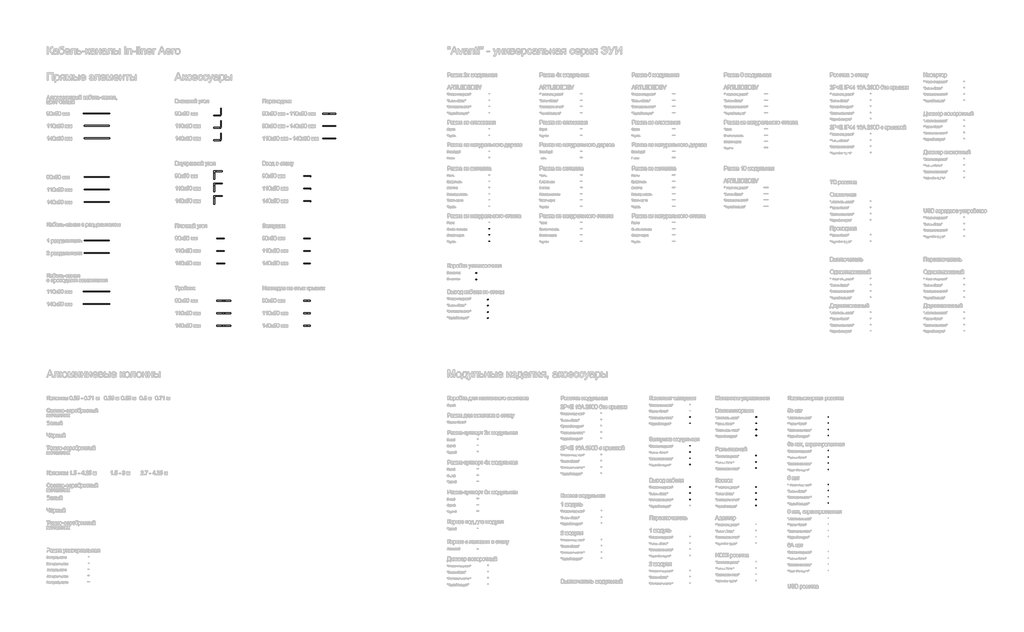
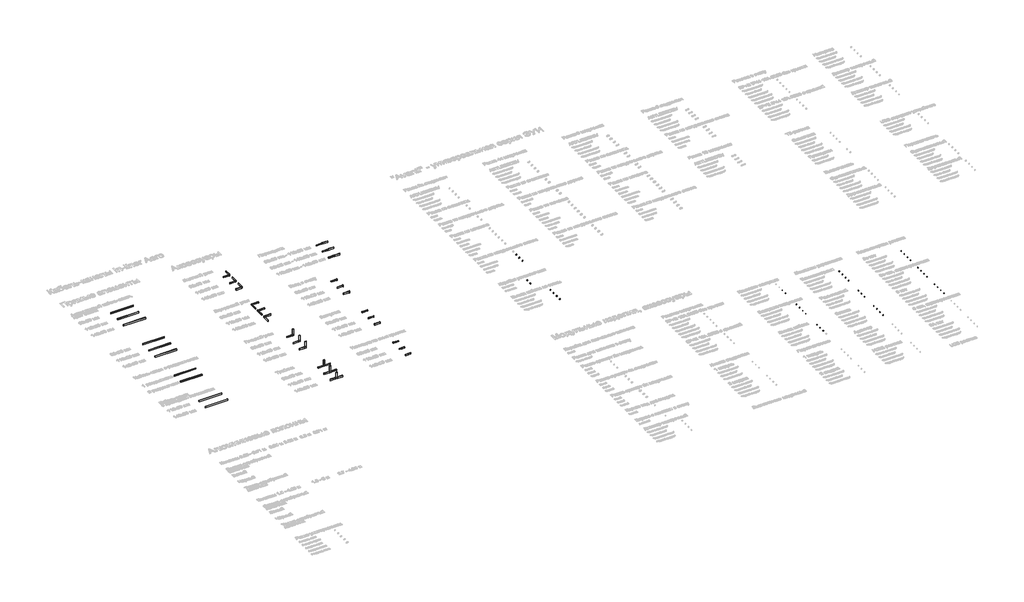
# One storey, part 2 of 168: 55 duct segments, 41 proxies, 25 duct fittings.
"""IFC4 building model written with IfcOpenShell, lengths in millimetres."""

from ifc_helpers import new_model, si_unit, frame, origin, place, context, project, spatial, polyline, outline, extrude, transform, mapped, element, save
from components import electrical_fixtures_7a4067e5, electrical_fixtures_b631ac2f, electrical_fixtures_96f9c914, electrical_fixtures_e782fb80, electrical_fixtures_b6adcdca, electrical_fixtures_1179ebf0, electrical_fixtures_da0829a4, electrical_fixtures_78a1f117, electrical_fixtures_828bd1fc, electrical_fixtures_21e1debb, duct_fitting_f061914f, duct_fitting_0ebe1992, duct_fitting_54a57bb6, duct_fitting_9d7435e2, duct_fitting_e96ebc83, duct_fitting_a4a51427, duct_fitting_e6dbaeff, duct_fitting_e088d14e, duct_fitting_b9135774, duct_fitting_89612ab8, duct_fitting_55dfbc9a, duct_fitting_11c19344, duct_fitting_31b2739c, duct_fitting_98a44e82, duct_fitting_d93176e7, duct_fitting_7f0a3ea3, duct_fitting_25aeb615, duct_fitting_57781086, duct_fitting_18d34416, duct_fitting_472e6830, duct_fitting_3937ce95, duct_fitting_09504g_049c488c

model = new_model("IFC4")

# Units and contexts
model_context = context("Model", 3, world=origin())
ifc_project = project(units=[si_unit("LENGTHUNIT", "METRE", prefix="MILLI")], contexts=[model_context])

# Site, building, storey
site = spatial("IfcSite", under=ifc_project)
building = spatial("IfcBuilding", under=site)
storey = spatial("IfcBuildingStorey", under=building, Name="Этаж 01", Elevation=0.0)

# Proxies
placement = place(None, origin())
electrical_fixtures_shape = electrical_fixtures_7a4067e5(model_context)
element("IfcBuildingElementProxy", 1, Name="КНС_РамкаДваМодуля_DKC : Натуральное стекло_Черная", ObjectType="КНС_РамкаДваМодуля_DKC : Натуральное стекло_Черная", at=placement, inside=storey, context=model_context, shape_type="MappedRepresentation", body=[
    mapped(electrical_fixtures_shape, transform((36232.6691835, -18231.5608655, 0.0), x_axis=(1.0, 0.0, 0.0), y_axis=(0.0, 1.0, 0.0), z_axis=(0.0, 0.0, 1.0))),
])
element("IfcBuildingElementProxy", 2, Name="КНС_РамкаДваМодуля_DKC : Натуральное стекло_Светло-серая", ObjectType="КНС_РамкаДваМодуля_DKC : Натуральное стекло_Светло-серая", at=placement, inside=storey, context=model_context, shape_type="MappedRepresentation", body=[
    mapped(electrical_fixtures_shape, transform((36232.6691835, -17731.5608655, 0.0), x_axis=(1.0, 0.0, 0.0), y_axis=(0.0, 1.0, 0.0), z_axis=(0.0, 0.0, 1.0))),
])
element("IfcBuildingElementProxy", 3, Name="КНС_РамкаДваМодуля_DKC : Натуральное стекло_Светло-зеленая", ObjectType="КНС_РамкаДваМодуля_DKC : Натуральное стекло_Светло-зеленая", at=placement, inside=storey, context=model_context, shape_type="MappedRepresentation", body=[
    mapped(electrical_fixtures_shape, transform((36232.6691835, -17231.5608655, 0.0), x_axis=(1.0, 0.0, 0.0), y_axis=(0.0, 1.0, 0.0), z_axis=(0.0, 0.0, 1.0))),
])
electrical_fixtures_2_shape = electrical_fixtures_b631ac2f(model_context)
element("IfcBuildingElementProxy", 4, Name="КНС_ЗаглушкаМодульная_DKC : Белая", ObjectType="КНС_ЗаглушкаМодульная_DKC : Белая", at=placement, inside=storey, context=model_context, shape_type="MappedRepresentation", body=[
    mapped(electrical_fixtures_2_shape, transform((52321.1137461, -35150.0174816, 0.0), x_axis=(1.0, 0.0, 0.0), y_axis=(0.0, 1.0, 0.0), z_axis=(0.0, 0.0, 1.0))),
])
element("IfcBuildingElementProxy", 5, Name="КНС_ЗаглушкаМодульная_DKC : Черная", ObjectType="КНС_ЗаглушкаМодульная_DKC : Черная", at=placement, inside=storey, context=model_context, shape_type="MappedRepresentation", body=[
    mapped(electrical_fixtures_2_shape, transform((52321.1137461, -36150.0174816, 0.0), x_axis=(1.0, 0.0, 0.0), y_axis=(0.0, 1.0, 0.0), z_axis=(0.0, 0.0, 1.0))),
])
element("IfcBuildingElementProxy", 6, Name="КНС_ЗаглушкаМодульная_DKC : Серая", ObjectType="КНС_ЗаглушкаМодульная_DKC : Серая", at=placement, inside=storey, context=model_context, shape_type="MappedRepresentation", body=[
    mapped(electrical_fixtures_2_shape, transform((52321.1137461, -35650.0174816, 0.0), x_axis=(1.0, 0.0, 0.0), y_axis=(0.0, 1.0, 0.0), z_axis=(0.0, 0.0, 1.0))),
])
element("IfcBuildingElementProxy", 7, Name="КНС_ЗаглушкаМодульная_DKC : Бежевая", ObjectType="КНС_ЗаглушкаМодульная_DKC : Бежевая", at=placement, inside=storey, context=model_context, shape_type="MappedRepresentation", body=[
    mapped(electrical_fixtures_2_shape, transform((52321.1137461, -34650.0174816, 0.0), x_axis=(1.0, 0.0, 0.0), y_axis=(0.0, 1.0, 0.0), z_axis=(0.0, 0.0, 1.0))),
])
electrical_fixtures_3_shape = electrical_fixtures_96f9c914(model_context)
element("IfcBuildingElementProxy", 8, Name="КНС_КоробкаПодрозеточнаяДляСплошныхСтен_DKC : 2 модуля с винтами", ObjectType="КНС_КоробкаПодрозеточнаяДляСплошныхСтен_DKC : 2 модуля с винтами", at=placement, inside=storey, context=model_context, shape_type="MappedRepresentation", body=[
    mapped(electrical_fixtures_3_shape, transform((35192.6691835, -21296.8608655, 0.0), x_axis=(1.0, 0.0, 0.0), y_axis=(0.0, 1.0, 0.0), z_axis=(0.0, 0.0, 1.0))),
])
element("IfcBuildingElementProxy", 9, Name="КНС_КоробкаПодрозеточнаяДляСплошныхСтен_DKC : 2 модуля без винтов", ObjectType="КНС_КоробкаПодрозеточнаяДляСплошныхСтен_DKC : 2 модуля без винтов", at=placement, inside=storey, context=model_context, shape_type="MappedRepresentation", body=[
    mapped(electrical_fixtures_3_shape, transform((35192.6691835, -20796.8608655, 0.0), x_axis=(1.0, 0.0, 0.0), y_axis=(0.0, 1.0, 0.0), z_axis=(0.0, 0.0, 1.0))),
])
electrical_fixtures_4_shape = electrical_fixtures_e782fb80(model_context)
element("IfcBuildingElementProxy", 10, Name="КНС_ВыводКабеляИзСтены_DKC : Белая", ObjectType="КНС_ВыводКабеляИзСтены_DKC : Белая", at=placement, inside=storey, context=model_context, shape_type="MappedRepresentation", body=[
    mapped(electrical_fixtures_4_shape, transform((36132.6691835, -23396.8608655, 0.0), x_axis=(1.0, 0.0, 0.0), y_axis=(0.0, 1.0, 0.0), z_axis=(0.0, 0.0, 1.0))),
])
element("IfcBuildingElementProxy", 11, Name="КНС_ВыводКабеляИзСтены_DKC : Бежевая", ObjectType="КНС_ВыводКабеляИзСтены_DKC : Бежевая", at=placement, inside=storey, context=model_context, shape_type="MappedRepresentation", body=[
    mapped(electrical_fixtures_4_shape, transform((36132.6691835, -22896.8608655, 0.0), x_axis=(1.0, 0.0, 0.0), y_axis=(0.0, 1.0, 0.0), z_axis=(0.0, 0.0, 1.0))),
])
element("IfcBuildingElementProxy", 12, Name="КНС_ВыводКабеляИзСтены_DKC : Серая", ObjectType="КНС_ВыводКабеляИзСтены_DKC : Серая", at=placement, inside=storey, context=model_context, shape_type="MappedRepresentation", body=[
    mapped(electrical_fixtures_4_shape, transform((36132.6691835, -23896.8608655, 0.0), x_axis=(1.0, 0.0, 0.0), y_axis=(0.0, 1.0, 0.0), z_axis=(0.0, 0.0, 1.0))),
])
element("IfcBuildingElementProxy", 13, Name="КНС_ВыводКабеляИзСтены_DKC : Черная", ObjectType="КНС_ВыводКабеляИзСтены_DKC : Черная", at=placement, inside=storey, context=model_context, shape_type="MappedRepresentation", body=[
    mapped(electrical_fixtures_4_shape, transform((36132.6691835, -24396.8608655, 0.0), x_axis=(1.0, 0.0, 0.0), y_axis=(0.0, 1.0, 0.0), z_axis=(0.0, 0.0, 1.0))),
])
electrical_fixtures_5_shape = electrical_fixtures_b6adcdca(model_context)
element("IfcBuildingElementProxy", 14, Name="КНС_ВыводКабеляДваМодуля_DKC : Белый", ObjectType="КНС_ВыводКабеляДваМодуля_DKC : Белый", at=placement, inside=storey, context=model_context, shape_type="MappedRepresentation", body=[
    mapped(electrical_fixtures_5_shape, transform((52321.1137461, -38415.3174816, 0.0), x_axis=(1.0, 0.0, 0.0), y_axis=(0.0, 1.0, 0.0), z_axis=(0.0, 0.0, 1.0))),
])
element("IfcBuildingElementProxy", 15, Name="КНС_ВыводКабеляДваМодуля_DKC : Бежевый", ObjectType="КНС_ВыводКабеляДваМодуля_DKC : Бежевый", at=placement, inside=storey, context=model_context, shape_type="MappedRepresentation", body=[
    mapped(electrical_fixtures_5_shape, transform((52321.1137461, -37915.3174816, 0.0), x_axis=(1.0, 0.0, 0.0), y_axis=(0.0, 1.0, 0.0), z_axis=(0.0, 0.0, 1.0))),
])
element("IfcBuildingElementProxy", 16, Name="КНС_ВыводКабеляДваМодуля_DKC : Серый", ObjectType="КНС_ВыводКабеляДваМодуля_DKC : Серый", at=placement, inside=storey, context=model_context, shape_type="MappedRepresentation", body=[
    mapped(electrical_fixtures_5_shape, transform((52321.1137461, -38915.3174816, 0.0), x_axis=(1.0, 0.0, 0.0), y_axis=(0.0, 1.0, 0.0), z_axis=(0.0, 0.0, 1.0))),
])
electrical_fixtures_6_shape = electrical_fixtures_1179ebf0(model_context)
element("IfcBuildingElementProxy", 17, Name="КНС_КомплектМодульныхЗаглушек_DKC : Черная", ObjectType="КНС_КомплектМодульныхЗаглушек_DKC : Черная", at=placement, inside=storey, context=model_context, shape_type="MappedRepresentation", body=[
    mapped(electrical_fixtures_6_shape, transform((52321.1137461, -32850.0174816, 0.0), x_axis=(1.0, 0.0, 0.0), y_axis=(0.0, 1.0, 0.0), z_axis=(0.0, 0.0, 1.0))),
])
element("IfcBuildingElementProxy", 18, Name="КНС_КомплектМодульныхЗаглушек_DKC : Серая", ObjectType="КНС_КомплектМодульныхЗаглушек_DKC : Серая", at=placement, inside=storey, context=model_context, shape_type="MappedRepresentation", body=[
    mapped(electrical_fixtures_6_shape, transform((52321.1137461, -32350.0174816, 0.0), x_axis=(1.0, 0.0, 0.0), y_axis=(0.0, 1.0, 0.0), z_axis=(0.0, 0.0, 1.0))),
])
electrical_fixtures_7_shape = electrical_fixtures_da0829a4(model_context)
element("IfcBuildingElementProxy", 19, Name="КНС_МеханизмУправленияВентиляторамиМодульный_DKC : Белый", ObjectType="КНС_МеханизмУправленияВентиляторамиМодульный_DKC : Белый", at=placement, inside=storey, context=model_context, shape_type="MappedRepresentation", body=[
    mapped(electrical_fixtures_7_shape, transform((57630.7424412, -32815.3174816, 0.0), x_axis=(1.0, 0.0, 0.0), y_axis=(0.0, 1.0, 0.0), z_axis=(0.0, 0.0, 1.0))),
])
element("IfcBuildingElementProxy", 20, Name="КНС_МеханизмУправленияВентиляторамиМодульный_DKC : Бежевый", ObjectType="КНС_МеханизмУправленияВентиляторамиМодульный_DKC : Бежевый", at=placement, inside=storey, context=model_context, shape_type="MappedRepresentation", body=[
    mapped(electrical_fixtures_7_shape, transform((57630.7424412, -32315.3174816, 0.0), x_axis=(1.0, 0.0, 0.0), y_axis=(0.0, 1.0, 0.0), z_axis=(0.0, 0.0, 1.0))),
])
element("IfcBuildingElementProxy", 21, Name="КНС_МеханизмУправленияВентиляторамиМодульный_DKC : Серый", ObjectType="КНС_МеханизмУправленияВентиляторамиМодульный_DKC : Серый", at=placement, inside=storey, context=model_context, shape_type="MappedRepresentation", body=[
    mapped(electrical_fixtures_7_shape, transform((57630.7424412, -33315.3174816, 0.0), x_axis=(1.0, 0.0, 0.0), y_axis=(0.0, 1.0, 0.0), z_axis=(0.0, 0.0, 1.0))),
])
element("IfcBuildingElementProxy", 22, Name="КНС_МеханизмУправленияВентиляторамиМодульный_DKC : Черный", ObjectType="КНС_МеханизмУправленияВентиляторамиМодульный_DKC : Черный", at=placement, inside=storey, context=model_context, shape_type="MappedRepresentation", body=[
    mapped(electrical_fixtures_7_shape, transform((57630.7424412, -33815.3174816, 0.0), x_axis=(1.0, 0.0, 0.0), y_axis=(0.0, 1.0, 0.0), z_axis=(0.0, 0.0, 1.0))),
])
electrical_fixtures_8_shape = electrical_fixtures_78a1f117(model_context)
element("IfcBuildingElementProxy", 23, Name="КНС_МеханизмУправленияРольставнейМодульный_DKC : Белый", ObjectType="КНС_МеханизмУправленияРольставнейМодульный_DKC : Белый", at=placement, inside=storey, context=model_context, shape_type="MappedRepresentation", body=[
    mapped(electrical_fixtures_8_shape, transform((57630.7424412, -35915.3174816, 0.0), x_axis=(1.0, 0.0, 0.0), y_axis=(0.0, 1.0, 0.0), z_axis=(0.0, 0.0, 1.0))),
])
element("IfcBuildingElementProxy", 24, Name="КНС_МеханизмУправленияРольставнейМодульный_DKC : Бежевый", ObjectType="КНС_МеханизмУправленияРольставнейМодульный_DKC : Бежевый", at=placement, inside=storey, context=model_context, shape_type="MappedRepresentation", body=[
    mapped(electrical_fixtures_8_shape, transform((57630.7424412, -35415.3174816, 0.0), x_axis=(1.0, 0.0, 0.0), y_axis=(0.0, 1.0, 0.0), z_axis=(0.0, 0.0, 1.0))),
])
element("IfcBuildingElementProxy", 25, Name="КНС_МеханизмУправленияРольставнейМодульный_DKC : Серый", ObjectType="КНС_МеханизмУправленияРольставнейМодульный_DKC : Серый", at=placement, inside=storey, context=model_context, shape_type="MappedRepresentation", body=[
    mapped(electrical_fixtures_8_shape, transform((57630.7424412, -36415.3174816, 0.0), x_axis=(1.0, 0.0, 0.0), y_axis=(0.0, 1.0, 0.0), z_axis=(0.0, 0.0, 1.0))),
])
electrical_fixtures_9_shape = electrical_fixtures_828bd1fc(model_context)
element("IfcBuildingElementProxy", 26, Name="КНС_ЗвонокМодульный_DKC : Белый", ObjectType="КНС_ЗвонокМодульный_DKC : Белый", at=placement, inside=storey, context=model_context, shape_type="MappedRepresentation", body=[
    mapped(electrical_fixtures_9_shape, transform((57630.7424412, -38415.3174816, 0.0), x_axis=(1.0, 0.0, 0.0), y_axis=(0.0, 1.0, 0.0), z_axis=(0.0, 0.0, 1.0))),
])
element("IfcBuildingElementProxy", 27, Name="КНС_ЗвонокМодульный_DKC : Бежевый", ObjectType="КНС_ЗвонокМодульный_DKC : Бежевый", at=placement, inside=storey, context=model_context, shape_type="MappedRepresentation", body=[
    mapped(electrical_fixtures_9_shape, transform((57630.7424412, -37915.3174816, 0.0), x_axis=(1.0, 0.0, 0.0), y_axis=(0.0, 1.0, 0.0), z_axis=(0.0, 0.0, 1.0))),
])
element("IfcBuildingElementProxy", 28, Name="КНС_ЗвонокМодульный_DKC : Серый", ObjectType="КНС_ЗвонокМодульный_DKC : Серый", at=placement, inside=storey, context=model_context, shape_type="MappedRepresentation", body=[
    mapped(electrical_fixtures_9_shape, transform((57630.7424412, -38915.3174816, 0.0), x_axis=(1.0, 0.0, 0.0), y_axis=(0.0, 1.0, 0.0), z_axis=(0.0, 0.0, 1.0))),
])
element("IfcBuildingElementProxy", 29, Name="КНС_ЗвонокМодульный_DKC : Черный", ObjectType="КНС_ЗвонокМодульный_DKC : Черный", at=placement, inside=storey, context=model_context, shape_type="MappedRepresentation", body=[
    mapped(electrical_fixtures_9_shape, transform((57630.7424412, -39415.3174816, 0.0), x_axis=(1.0, 0.0, 0.0), y_axis=(0.0, 1.0, 0.0), z_axis=(0.0, 0.0, 1.0))),
])
electrical_fixtures_10_shape = electrical_fixtures_21e1debb(model_context)
element("IfcBuildingElementProxy", 30, Name="КНС_РозеткаКомпьютернаяМодульная_DKC : 5е кат_Экранированная_Белая", ObjectType="КНС_РозеткаКомпьютернаяМодульная_DKC : 5е кат_Экранированная_Белая", at=placement, inside=storey, context=model_context, shape_type="MappedRepresentation", body=[
    mapped(electrical_fixtures_10_shape, transform((63421.1137461, -35550.0174816, 0.0), x_axis=(1.0, 0.0, 0.0), y_axis=(0.0, 1.0, 0.0), z_axis=(0.0, 0.0, 1.0))),
])
element("IfcBuildingElementProxy", 31, Name="КНС_РозеткаКомпьютернаяМодульная_DKC : 5е кат_Экранированная_Черная", ObjectType="КНС_РозеткаКомпьютернаяМодульная_DKC : 5е кат_Экранированная_Черная", at=placement, inside=storey, context=model_context, shape_type="MappedRepresentation", body=[
    mapped(electrical_fixtures_10_shape, transform((63421.1137461, -36550.0174816, 0.0), x_axis=(1.0, 0.0, 0.0), y_axis=(0.0, 1.0, 0.0), z_axis=(0.0, 0.0, 1.0))),
])
element("IfcBuildingElementProxy", 32, Name="КНС_РозеткаКомпьютернаяМодульная_DKC : 5е кат_Экранированная_Серая", ObjectType="КНС_РозеткаКомпьютернаяМодульная_DKC : 5е кат_Экранированная_Серая", at=placement, inside=storey, context=model_context, shape_type="MappedRepresentation", body=[
    mapped(electrical_fixtures_10_shape, transform((63421.1137461, -36050.0174816, 0.0), x_axis=(1.0, 0.0, 0.0), y_axis=(0.0, 1.0, 0.0), z_axis=(0.0, 0.0, 1.0))),
])
element("IfcBuildingElementProxy", 33, Name="КНС_РозеткаКомпьютернаяМодульная_DKC : 5е кат_Экранированная_Бежевая", ObjectType="КНС_РозеткаКомпьютернаяМодульная_DKC : 5е кат_Экранированная_Бежевая", at=placement, inside=storey, context=model_context, shape_type="MappedRepresentation", body=[
    mapped(electrical_fixtures_10_shape, transform((63421.1137461, -35050.0174816, 0.0), x_axis=(1.0, 0.0, 0.0), y_axis=(0.0, 1.0, 0.0), z_axis=(0.0, 0.0, 1.0))),
])
element("IfcBuildingElementProxy", 34, Name="КНС_РозеткаКомпьютернаяМодульная_DKC : 5е кат_Бежевая", ObjectType="КНС_РозеткаКомпьютернаяМодульная_DKC : 5е кат_Бежевая", at=placement, inside=storey, context=model_context, shape_type="MappedRepresentation", body=[
    mapped(electrical_fixtures_10_shape, transform((63421.1137461, -32350.0174816, 0.0), x_axis=(1.0, 0.0, 0.0), y_axis=(0.0, 1.0, 0.0), z_axis=(0.0, 0.0, 1.0))),
])
element("IfcBuildingElementProxy", 35, Name="КНС_РозеткаКомпьютернаяМодульная_DKC : 5е кат_Белая", ObjectType="КНС_РозеткаКомпьютернаяМодульная_DKC : 5е кат_Белая", at=placement, inside=storey, context=model_context, shape_type="MappedRepresentation", body=[
    mapped(electrical_fixtures_10_shape, transform((63421.1137461, -32850.0174816, 0.0), x_axis=(1.0, 0.0, 0.0), y_axis=(0.0, 1.0, 0.0), z_axis=(0.0, 0.0, 1.0))),
])
element("IfcBuildingElementProxy", 36, Name="КНС_РозеткаКомпьютернаяМодульная_DKC : 5е кат_Серая", ObjectType="КНС_РозеткаКомпьютернаяМодульная_DKC : 5е кат_Серая", at=placement, inside=storey, context=model_context, shape_type="MappedRepresentation", body=[
    mapped(electrical_fixtures_10_shape, transform((63421.1137461, -33350.0174816, 0.0), x_axis=(1.0, 0.0, 0.0), y_axis=(0.0, 1.0, 0.0), z_axis=(0.0, 0.0, 1.0))),
])
element("IfcBuildingElementProxy", 37, Name="КНС_РозеткаКомпьютернаяМодульная_DKC : 5е кат_Черная", ObjectType="КНС_РозеткаКомпьютернаяМодульная_DKC : 5е кат_Черная", at=placement, inside=storey, context=model_context, shape_type="MappedRepresentation", body=[
    mapped(electrical_fixtures_10_shape, transform((63421.1137461, -33850.0174816, 0.0), x_axis=(1.0, 0.0, 0.0), y_axis=(0.0, 1.0, 0.0), z_axis=(0.0, 0.0, 1.0))),
])
element("IfcBuildingElementProxy", 38, Name="КНС_РозеткаКомпьютернаяМодульная_DKC : 6 кат_Бежевая", ObjectType="КНС_РозеткаКомпьютернаяМодульная_DKC : 6 кат_Бежевая", at=placement, inside=storey, context=model_context, shape_type="MappedRepresentation", body=[
    mapped(electrical_fixtures_10_shape, transform((63421.1137461, -37750.0174816, 0.0), x_axis=(1.0, 0.0, 0.0), y_axis=(0.0, 1.0, 0.0), z_axis=(0.0, 0.0, 1.0))),
])
element("IfcBuildingElementProxy", 39, Name="КНС_РозеткаКомпьютернаяМодульная_DKC : 6 кат_Белая", ObjectType="КНС_РозеткаКомпьютернаяМодульная_DKC : 6 кат_Белая", at=placement, inside=storey, context=model_context, shape_type="MappedRepresentation", body=[
    mapped(electrical_fixtures_10_shape, transform((63421.1137461, -38250.0174816, 0.0), x_axis=(1.0, 0.0, 0.0), y_axis=(0.0, 1.0, 0.0), z_axis=(0.0, 0.0, 1.0))),
])
element("IfcBuildingElementProxy", 40, Name="КНС_РозеткаКомпьютернаяМодульная_DKC : 6 кат_Серая", ObjectType="КНС_РозеткаКомпьютернаяМодульная_DKC : 6 кат_Серая", at=placement, inside=storey, context=model_context, shape_type="MappedRepresentation", body=[
    mapped(electrical_fixtures_10_shape, transform((63421.1137461, -38750.0174816, 0.0), x_axis=(1.0, 0.0, 0.0), y_axis=(0.0, 1.0, 0.0), z_axis=(0.0, 0.0, 1.0))),
])
element("IfcBuildingElementProxy", 41, Name="КНС_РозеткаКомпьютернаяМодульная_DKC : 6 кат_Черная", ObjectType="КНС_РозеткаКомпьютернаяМодульная_DKC : 6 кат_Черная", at=placement, inside=storey, context=model_context, shape_type="MappedRepresentation", body=[
    mapped(electrical_fixtures_10_shape, transform((63421.1137461, -39250.0174816, 0.0), x_axis=(1.0, 0.0, 0.0), y_axis=(0.0, 1.0, 0.0), z_axis=(0.0, 0.0, 1.0))),
])

# Duct fittings
duct_fitting_shape = duct_fitting_f061914f(model_context)
element("IfcDuctFitting", 42, ObjectType="КНС_Тройник_DKC : Тройник (Т-образный отвод)", at=placement, inside=storey, context=model_context, shape_type="MappedRepresentation", body=[
    mapped(duct_fitting_shape, transform((14944.6238337, -25022.3370657, 0.0), x_axis=(-1.0, 0.0, 0.0), y_axis=(0.0, 0.0, -1.0), z_axis=(0.0, -1.0, 0.0))),
])
duct_fitting_2_shape = duct_fitting_0ebe1992(model_context)
element("IfcDuctFitting", 43, ObjectType="КНС_УголВнешний_DKC : Угол внешний", at=placement, inside=storey, context=model_context, shape_type="MappedRepresentation", body=[
    mapped(duct_fitting_2_shape, transform((14730.114053, -9152.675335, 0.0), x_axis=(1.0, 0.0, 0.0), y_axis=(0.0, 1.0, 0.0), z_axis=(0.0, 0.0, 1.0))),
])
duct_fitting_3_shape = duct_fitting_54a57bb6(model_context)
element("IfcDuctFitting", 44, ObjectType="КНС_УголВнутренний_DKC : Угол внутренний", at=placement, inside=storey, context=model_context, shape_type="MappedRepresentation", body=[
    mapped(duct_fitting_3_shape, transform((14186.3457421, -13633.2753858, 0.0), x_axis=(-1.0, 0.0, 0.0), y_axis=(0.0, -1.0, 0.0), z_axis=(0.0, 0.0, 1.0))),
])
duct_fitting_4_shape = duct_fitting_9d7435e2(model_context)
element("IfcDuctFitting", 45, ObjectType="КНС_УголПлоский_DKC : Угол плоский", at=placement, inside=storey, context=model_context, shape_type="MappedRepresentation", body=[
    mapped(duct_fitting_4_shape, transform((14934.4572449, -20022.3370657, 15.0757244), x_axis=(1.0, 0.0, 0.0), y_axis=(0.0, 0.0, 1.0), z_axis=(0.0, -1.0, 0.0))),
])
duct_fitting_5_shape = duct_fitting_e96ebc83(model_context)
element("IfcDuctFitting", 46, ObjectType="КНС_ЗаглушкаТорцевая_DKC : Заглушка торцевая", at=placement, inside=storey, context=model_context, shape_type="MappedRepresentation", body=[
    mapped(duct_fitting_5_shape, transform((21861.9572449, -18007.2613413, 0.0), x_axis=(1.0, 0.0, 0.0), y_axis=(0.0, 1.0, 0.0), z_axis=(0.0, 0.0, 1.0))),
])
duct_fitting_6_shape = duct_fitting_a4a51427(model_context)
element("IfcDuctFitting", 47, ObjectType="КНС_ВводВСтену_DKC : Ввод в стену", at=placement, inside=storey, context=model_context, shape_type="MappedRepresentation", body=[
    mapped(duct_fitting_6_shape, transform((21861.9572449, -13007.2613413, 0.0), x_axis=(1.0, 0.0, 0.0), y_axis=(0.0, 1.0, 0.0), z_axis=(0.0, 0.0, 1.0))),
])
duct_fitting_7_shape = duct_fitting_e6dbaeff(model_context)
element("IfcDuctFitting", 48, ObjectType="КНС_ВводВСтену_DKC : Ввод в стену", at=placement, inside=storey, context=model_context, shape_type="MappedRepresentation", body=[
    mapped(duct_fitting_7_shape, transform((21861.9572449, -14007.2613413, 0.0), x_axis=(1.0, 0.0, 0.0), y_axis=(0.0, 1.0, 0.0), z_axis=(0.0, 0.0, 1.0))),
])
duct_fitting_8_shape = duct_fitting_e088d14e(model_context)
element("IfcDuctFitting", 49, ObjectType="КНС_ВводВСтену_DKC : Ввод в стену", at=placement, inside=storey, context=model_context, shape_type="MappedRepresentation", body=[
    mapped(duct_fitting_8_shape, transform((21861.9572449, -15007.2613413, 0.0), x_axis=(1.0, 0.0, 0.0), y_axis=(0.0, 1.0, 0.0), z_axis=(0.0, 0.0, 1.0))),
])
duct_fitting_9_shape = duct_fitting_b9135774(model_context)
element("IfcDuctFitting", 50, ObjectType="КНС_Переход_DKC : Переход", at=placement, inside=storey, context=model_context, shape_type="MappedRepresentation", body=[
    mapped(duct_fitting_9_shape, transform((23361.9572449, -8007.2613413, 0.0), x_axis=(1.0, 0.0, 0.0), y_axis=(0.0, 1.0, 0.0), z_axis=(0.0, 0.0, 1.0))),
])
duct_fitting_10_shape = duct_fitting_89612ab8(model_context)
element("IfcDuctFitting", 51, ObjectType="КНС_Переход_DKC : Переход", at=placement, inside=storey, context=model_context, shape_type="MappedRepresentation", body=[
    mapped(duct_fitting_10_shape, transform((23432.2904224, -9037.4127901, 0.0), x_axis=(-1.0, 0.0, 0.0), y_axis=(0.0, -1.0, 0.0), z_axis=(0.0, 0.0, 1.0))),
])
duct_fitting_11_shape = duct_fitting_55dfbc9a(model_context)
element("IfcDuctFitting", 52, ObjectType="КНС_Переход_DKC : Переход", at=placement, inside=storey, context=model_context, shape_type="MappedRepresentation", body=[
    mapped(duct_fitting_11_shape, transform((23361.9572449, -10007.2613413, 0.0), x_axis=(1.0, 0.0, 0.0), y_axis=(0.0, 1.0, 0.0), z_axis=(0.0, 0.0, 1.0))),
])
duct_fitting_12_shape = duct_fitting_11c19344(model_context)
element("IfcDuctFitting", 53, ObjectType="КНС_ЗаглушкаТорцевая_DKC : Заглушка торцевая", at=placement, inside=storey, context=model_context, shape_type="MappedRepresentation", body=[
    mapped(duct_fitting_12_shape, transform((21861.9572449, -19007.2613413, 0.0), x_axis=(1.0, 0.0, 0.0), y_axis=(0.0, 1.0, 0.0), z_axis=(0.0, 0.0, 1.0))),
])
duct_fitting_13_shape = duct_fitting_31b2739c(model_context)
element("IfcDuctFitting", 54, ObjectType="КНС_ЗаглушкаТорцевая_DKC : Заглушка торцевая", at=placement, inside=storey, context=model_context, shape_type="MappedRepresentation", body=[
    mapped(duct_fitting_13_shape, transform((21861.9572449, -20007.2613413, 0.0), x_axis=(1.0, 0.0, 0.0), y_axis=(0.0, 1.0, 0.0), z_axis=(0.0, 0.0, 1.0))),
])
duct_fitting_14_shape = duct_fitting_98a44e82(model_context)
element("IfcDuctFitting", 55, ObjectType="КНС_Тройник_DKC : Тройник (Т-образный отвод)", at=placement, inside=storey, context=model_context, shape_type="MappedRepresentation", body=[
    mapped(duct_fitting_14_shape, transform((14944.6238337, -23022.3370657, 0.0), x_axis=(-1.0, 0.0, 0.0), y_axis=(0.0, 0.0, -1.0), z_axis=(0.0, -1.0, 0.0))),
])
duct_fitting_15_shape = duct_fitting_d93176e7(model_context)
element("IfcDuctFitting", 56, ObjectType="КНС_Тройник_DKC : Тройник (Т-образный отвод)", at=placement, inside=storey, context=model_context, shape_type="MappedRepresentation", body=[
    mapped(duct_fitting_15_shape, transform((14944.6238337, -24022.3370657, 0.0), x_axis=(-1.0, 0.0, 0.0), y_axis=(0.0, 0.0, -1.0), z_axis=(0.0, -1.0, 0.0))),
])
duct_fitting_16_shape = duct_fitting_7f0a3ea3(model_context)
element("IfcDuctFitting", 57, ObjectType="КНС_УголВнутренний_DKC : Угол внутренний", at=placement, inside=storey, context=model_context, shape_type="MappedRepresentation", body=[
    mapped(duct_fitting_16_shape, transform((14186.3457421, -12633.2753858, 0.0), x_axis=(-1.0, 0.0, 0.0), y_axis=(0.0, -1.0, 0.0), z_axis=(0.0, 0.0, 1.0))),
])
duct_fitting_17_shape = duct_fitting_25aeb615(model_context)
element("IfcDuctFitting", 58, ObjectType="КНС_УголВнутренний_DKC : Угол внутренний", at=placement, inside=storey, context=model_context, shape_type="MappedRepresentation", body=[
    mapped(duct_fitting_17_shape, transform((14186.3457421, -14633.2753858, 0.0), x_axis=(-1.0, 0.0, 0.0), y_axis=(0.0, -1.0, 0.0), z_axis=(0.0, 0.0, 1.0))),
])
duct_fitting_18_shape = duct_fitting_57781086(model_context)
element("IfcDuctFitting", 59, ObjectType="КНС_УголПлоский_DKC : Угол плоский", at=placement, inside=storey, context=model_context, shape_type="MappedRepresentation", body=[
    mapped(duct_fitting_18_shape, transform((14934.4572449, -18022.3370657, 15.0757244), x_axis=(1.0, 0.0, 0.0), y_axis=(0.0, 0.0, 1.0), z_axis=(0.0, -1.0, 0.0))),
])
duct_fitting_19_shape = duct_fitting_18d34416(model_context)
element("IfcDuctFitting", 60, ObjectType="КНС_УголПлоский_DKC : Угол плоский", at=placement, inside=storey, context=model_context, shape_type="MappedRepresentation", body=[
    mapped(duct_fitting_19_shape, transform((14934.4572449, -19022.3370657, 15.0757244), x_axis=(1.0, 0.0, 0.0), y_axis=(0.0, 0.0, 1.0), z_axis=(0.0, -1.0, 0.0))),
])
duct_fitting_20_shape = duct_fitting_472e6830(model_context)
element("IfcDuctFitting", 61, ObjectType="КНС_УголВнешний_DKC : Угол внешний", at=placement, inside=storey, context=model_context, shape_type="MappedRepresentation", body=[
    mapped(duct_fitting_20_shape, transform((14730.114053, -8152.675335, 0.0), x_axis=(1.0, 0.0, 0.0), y_axis=(0.0, 1.0, 0.0), z_axis=(0.0, 0.0, 1.0))),
])
duct_fitting_21_shape = duct_fitting_3937ce95(model_context)
element("IfcDuctFitting", 62, ObjectType="КНС_УголВнешний_DKC : Угол внешний", at=placement, inside=storey, context=model_context, shape_type="MappedRepresentation", body=[
    mapped(duct_fitting_21_shape, transform((14730.114053, -10152.675335, 0.0), x_axis=(1.0, 0.0, 0.0), y_axis=(0.0, 1.0, 0.0), z_axis=(0.0, 0.0, 1.0))),
])
duct_fitting_09504g_shape = duct_fitting_09504g_049c488c(model_context)
element("IfcDuctFitting", 63, ObjectType="КНС_НакладкаНаСтыкКрышек_DKC : 09504G", at=placement, inside=storey, context=model_context, shape_type="MappedRepresentation", body=[
    mapped(duct_fitting_09504g_shape, transform((21762.1238337, -23177.3370657, 0.0), x_axis=(1.0, 0.0, 0.0), y_axis=(0.0, 1.0, 0.0), z_axis=(0.0, 0.0, 1.0))),
])
element("IfcDuctFitting", 64, ObjectType="КНС_НакладкаНаСтыкКрышек_DKC : 09504G", at=placement, inside=storey, context=model_context, shape_type="MappedRepresentation", body=[
    mapped(duct_fitting_09504g_shape, transform((21762.1238337, -24177.3370657, 0.0), x_axis=(1.0, 0.0, 0.0), y_axis=(0.0, 1.0, 0.0), z_axis=(0.0, 0.0, 1.0))),
])
element("IfcDuctFitting", 65, ObjectType="КНС_НакладкаНаСтыкКрышек_DKC : 09504G", at=placement, inside=storey, context=model_context, shape_type="MappedRepresentation", body=[
    mapped(duct_fitting_09504g_shape, transform((21762.1238337, -25177.3370657, 29.3), x_axis=(1.0, 0.0, 0.0), y_axis=(0.0, 1.0, 0.0), z_axis=(0.0, 0.0, 1.0))),
])
element("IfcDuctFitting", 66, ObjectType="КНС_НакладкаНаСтыкКрышек_DKC : 09504G", at=placement, inside=storey, context=model_context, shape_type="MappedRepresentation", body=[
    mapped(duct_fitting_09504g_shape, transform((21762.1238337, -25177.3370657, -29.3), x_axis=(1.0, 0.0, 0.0), y_axis=(0.0, 1.0, 0.0), z_axis=(0.0, 0.0, 1.0))),
])

# Duct segments
element("IfcDuctSegment", 67, ObjectType="КНС_Алюминиевый кабель-канал_90х50/110х50/140х50_Цвет белый_DKC", at=placement, inside=storey, context=model_context, shape_type="SweptSolid", body=[
    extrude(outline(polyline([(3704.6808871, -8017.3957789), (3704.6808871, -7967.3957789), (5804.6808871, -7967.3957789), (5804.6808871, -8017.3957789), (3704.6808871, -8017.3957789)])), frame((0.0, 0.0, -45.0), z_axis=(0.0, 0.0, 1.0), x_axis=(1.0, 0.0, 0.0)), (0.0, 0.0, 1.0), 90.0),
])
element("IfcDuctSegment", 68, ObjectType="КНС_Алюминиевый кабель-канал_90х50/110х50/140х50_Цвет белый_DKC", at=placement, inside=storey, context=model_context, shape_type="SweptSolid", body=[
    extrude(outline(polyline([(3754.6808871, -9017.3957789), (3754.6808871, -8967.3957789), (5754.6808871, -8967.3957789), (5754.6808871, -9017.3957789), (3754.6808871, -9017.3957789)])), frame((0.0, 0.0, -55.0), z_axis=(0.0, 0.0, 1.0), x_axis=(1.0, 0.0, 0.0)), (0.0, 0.0, 1.0), 110.0),
])
element("IfcDuctSegment", 69, ObjectType="КНС_Алюминиевый кабель-канал_90х50/110х50/140х50_Цвет серебристый металлик_DKC", at=placement, inside=storey, context=model_context, shape_type="SweptSolid", body=[
    extrude(outline(polyline([(3754.6808871, -10017.3957789), (3754.6808871, -9967.3957789), (5804.6808871, -9967.3957789), (5804.6808871, -10017.3957789), (3754.6808871, -10017.3957789)])), frame((0.0, 0.0, -70.0), z_axis=(0.0, 0.0, 1.0), x_axis=(1.0, 0.0, 0.0)), (0.0, 0.0, 1.0), 140.0),
])
element("IfcDuctSegment", 70, ObjectType="КНС_Алюминиевый кабель-канал_90х50/110х50/140х50_Цвет серебристый металлик_DKC", at=placement, inside=storey, context=model_context, shape_type="SweptSolid", body=[
    extrude(outline(polyline([(3754.6808871, -13117.3957789), (3754.6808871, -13067.3957789), (5754.6808871, -13067.3957789), (5754.6808871, -13117.3957789), (3754.6808871, -13117.3957789)])), frame((0.0, 0.0, -45.0), z_axis=(0.0, 0.0, 1.0), x_axis=(1.0, 0.0, 0.0)), (0.0, 0.0, 1.0), 90.0),
])
element("IfcDuctSegment", 71, ObjectType="КНС_Алюминиевый кабель-канал_90х50/110х50/140х50_Цвет серебристый металлик_DKC", at=placement, inside=storey, context=model_context, shape_type="SweptSolid", body=[
    extrude(outline(polyline([(3754.6808871, -14117.3957789), (3754.6808871, -14067.3957789), (5754.6808871, -14067.3957789), (5754.6808871, -14117.3957789), (3754.6808871, -14117.3957789)])), frame((0.0, 0.0, -55.0), z_axis=(0.0, 0.0, 1.0), x_axis=(1.0, 0.0, 0.0)), (0.0, 0.0, 1.0), 110.0),
])
element("IfcDuctSegment", 72, ObjectType="КНС_Алюминиевый кабель-канал_90х50/110х50/140х50_Цвет серебристый металлик_DKC", at=placement, inside=storey, context=model_context, shape_type="SweptSolid", body=[
    extrude(outline(polyline([(3754.6808871, -15117.3957789), (3754.6808871, -15067.3957789), (5754.6808871, -15067.3957789), (5754.6808871, -15117.3957789), (3754.6808871, -15117.3957789)])), frame((0.0, 0.0, -70.0), z_axis=(0.0, 0.0, 1.0), x_axis=(1.0, 0.0, 0.0)), (0.0, 0.0, 1.0), 140.0),
])
element("IfcDuctSegment", 73, ObjectType="КНС_Алюминиевый кабель-канал_90х50/110х50/140х50_Цвет белый_DKC", at=placement, inside=storey, context=model_context, shape_type="SweptSolid", body=[
    extrude(outline(polyline([(14155.114053, -8177.675335), (14155.114053, -8127.675335), (14655.114053, -8127.675335), (14655.114053, -8177.675335), (14155.114053, -8177.675335)])), frame((0.0, 0.0, -45.0), z_axis=(0.0, 0.0, 1.0), x_axis=(1.0, 0.0, 0.0)), (0.0, 0.0, 1.0), 90.0),
])
element("IfcDuctSegment", 74, ObjectType="КНС_Алюминиевый кабель-канал_90х50/110х50/140х50_Цвет белый_DKC", at=placement, inside=storey, context=model_context, shape_type="SweptSolid", body=[
    extrude(outline(polyline([(14755.114053, -8077.675335), (14705.114053, -8077.675335), (14705.114053, -7577.675335), (14755.114053, -7577.675335), (14755.114053, -8077.675335)])), frame((0.0, 0.0, -45.0), z_axis=(0.0, 0.0, 1.0), x_axis=(1.0, 0.0, 0.0)), (0.0, 0.0, 1.0), 90.0),
])
element("IfcDuctSegment", 75, ObjectType="КНС_Алюминиевый кабель-канал_90х50/110х50/140х50_Цвет белый_DKC", at=placement, inside=storey, context=model_context, shape_type="SweptSolid", body=[
    extrude(outline(polyline([(14155.114053, -9177.675335), (14155.114053, -9127.675335), (14655.114053, -9127.675335), (14655.114053, -9177.675335), (14155.114053, -9177.675335)])), frame((0.0, 0.0, -55.0), z_axis=(0.0, 0.0, 1.0), x_axis=(1.0, 0.0, 0.0)), (0.0, 0.0, 1.0), 110.0),
])
element("IfcDuctSegment", 76, ObjectType="КНС_Алюминиевый кабель-канал_90х50/110х50/140х50_Цвет белый_DKC", at=placement, inside=storey, context=model_context, shape_type="SweptSolid", body=[
    extrude(outline(polyline([(14755.114053, -9077.675335), (14705.114053, -9077.675335), (14705.114053, -8577.675335), (14755.114053, -8577.675335), (14755.114053, -9077.675335)])), frame((0.0, 0.0, -55.0), z_axis=(0.0, 0.0, 1.0), x_axis=(1.0, 0.0, 0.0)), (0.0, 0.0, 1.0), 110.0),
])
element("IfcDuctSegment", 77, ObjectType="КНС_Алюминиевый кабель-канал_90х50/110х50/140х50_Цвет белый_DKC", at=placement, inside=storey, context=model_context, shape_type="SweptSolid", body=[
    extrude(outline(polyline([(14155.114053, -10177.675335), (14155.114053, -10127.675335), (14655.114053, -10127.675335), (14655.114053, -10177.675335), (14155.114053, -10177.675335)])), frame((0.0, 0.0, -70.0), z_axis=(0.0, 0.0, 1.0), x_axis=(1.0, 0.0, 0.0)), (0.0, 0.0, 1.0), 140.0),
])
element("IfcDuctSegment", 78, ObjectType="КНС_Алюминиевый кабель-канал_90х50/110х50/140х50_Цвет белый_DKC", at=placement, inside=storey, context=model_context, shape_type="SweptSolid", body=[
    extrude(outline(polyline([(14755.114053, -10077.675335), (14705.114053, -10077.675335), (14705.114053, -9577.675335), (14755.114053, -9577.675335), (14755.114053, -10077.675335)])), frame((0.0, 0.0, -70.0), z_axis=(0.0, 0.0, 1.0), x_axis=(1.0, 0.0, 0.0)), (0.0, 0.0, 1.0), 140.0),
])
element("IfcDuctSegment", 79, ObjectType="КНС_Алюминиевый кабель-канал_90х50/110х50/140х50_Цвет белый_DKC", at=placement, inside=storey, context=model_context, shape_type="SweptSolid", body=[
    extrude(outline(polyline([(14211.3457421, -13263.2753858), (14161.3457421, -13263.2753858), (14161.3457421, -12763.2753858), (14211.3457421, -12763.2753858), (14211.3457421, -13263.2753858)])), frame((0.0, 0.0, -45.0), z_axis=(0.0, 0.0, 1.0), x_axis=(1.0, 0.0, 0.0)), (0.0, 0.0, 1.0), 90.0),
])
element("IfcDuctSegment", 80, ObjectType="КНС_Алюминиевый кабель-канал_90х50/110х50/140х50_Цвет белый_DKC", at=placement, inside=storey, context=model_context, shape_type="SweptSolid", body=[
    extrude(outline(polyline([(14316.3457421, -12658.2753858), (14316.3457421, -12608.2753858), (14816.3457421, -12608.2753858), (14816.3457421, -12658.2753858), (14316.3457421, -12658.2753858)])), frame((0.0, 0.0, -45.0), z_axis=(0.0, 0.0, 1.0), x_axis=(1.0, 0.0, 0.0)), (0.0, 0.0, 1.0), 90.0),
])
element("IfcDuctSegment", 81, ObjectType="КНС_Алюминиевый кабель-канал_90х50/110х50/140х50_Цвет белый_DKC", at=placement, inside=storey, context=model_context, shape_type="SweptSolid", body=[
    extrude(outline(polyline([(14211.3457421, -14263.2753858), (14161.3457421, -14263.2753858), (14161.3457421, -13763.2753858), (14211.3457421, -13763.2753858), (14211.3457421, -14263.2753858)])), frame((0.0, 0.0, -55.0), z_axis=(0.0, 0.0, 1.0), x_axis=(1.0, 0.0, 0.0)), (0.0, 0.0, 1.0), 110.0),
])
element("IfcDuctSegment", 82, ObjectType="КНС_Алюминиевый кабель-канал_90х50/110х50/140х50_Цвет белый_DKC", at=placement, inside=storey, context=model_context, shape_type="SweptSolid", body=[
    extrude(outline(polyline([(14316.3457421, -13658.2753858), (14316.3457421, -13608.2753858), (14816.3457421, -13608.2753858), (14816.3457421, -13658.2753858), (14316.3457421, -13658.2753858)])), frame((0.0, 0.0, -55.0), z_axis=(0.0, 0.0, 1.0), x_axis=(1.0, 0.0, 0.0)), (0.0, 0.0, 1.0), 110.0),
])
element("IfcDuctSegment", 83, ObjectType="КНС_Алюминиевый кабель-канал_90х50/110х50/140х50_Цвет белый_DKC", at=placement, inside=storey, context=model_context, shape_type="SweptSolid", body=[
    extrude(outline(polyline([(14211.3457421, -15263.2753858), (14161.3457421, -15263.2753858), (14161.3457421, -14763.2753858), (14211.3457421, -14763.2753858), (14211.3457421, -15263.2753858)])), frame((0.0, 0.0, -70.0), z_axis=(0.0, 0.0, 1.0), x_axis=(1.0, 0.0, 0.0)), (0.0, 0.0, 1.0), 140.0),
])
element("IfcDuctSegment", 84, ObjectType="КНС_Алюминиевый кабель-канал_90х50/110х50/140х50_Цвет белый_DKC", at=placement, inside=storey, context=model_context, shape_type="SweptSolid", body=[
    extrude(outline(polyline([(14316.3457421, -14658.2753858), (14316.3457421, -14608.2753858), (14816.3457421, -14608.2753858), (14816.3457421, -14658.2753858), (14316.3457421, -14658.2753858)])), frame((0.0, 0.0, -70.0), z_axis=(0.0, 0.0, 1.0), x_axis=(1.0, 0.0, 0.0)), (0.0, 0.0, 1.0), 140.0),
])
element("IfcDuctSegment", 85, ObjectType="КНС_Алюминиевый кабель-канал_90х50/110х50/140х50_Цвет белый_DKC", at=placement, inside=storey, context=model_context, shape_type="SweptSolid", body=[
    extrude(outline(polyline([(14372.1238337, -18047.3370657), (14372.1238337, -17997.3370657), (14872.1238337, -17997.3370657), (14872.1238337, -18047.3370657), (14372.1238337, -18047.3370657)])), frame((0.0, 0.0, -45.0), z_axis=(0.0, 0.0, 1.0), x_axis=(1.0, 0.0, 0.0)), (0.0, 0.0, 1.0), 90.0),
])
element("IfcDuctSegment", 86, ObjectType="КНС_Алюминиевый кабель-канал_90х50/110х50/140х50_Цвет белый_DKC", at=placement, inside=storey, context=model_context, shape_type="SweptSolid", body=[
    extrude(outline(polyline([(14989.6238337, -17997.3370657), (14989.6238337, -18047.3370657), (14899.6238337, -18047.3370657), (14899.6238337, -17997.3370657), (14989.6238337, -17997.3370657)])), frame((0.0, 0.0, 72.5), z_axis=(0.0, 0.0, 1.0), x_axis=(1.0, 0.0, 0.0)), (0.0, 0.0, 1.0), 500.0),
])
element("IfcDuctSegment", 87, ObjectType="КНС_Алюминиевый кабель-канал_90х50/110х50/140х50_Цвет белый_DKC", at=placement, inside=storey, context=model_context, shape_type="SweptSolid", body=[
    extrude(outline(polyline([(14372.1238337, -19047.3370657), (14372.1238337, -18997.3370657), (14862.1238337, -18997.3370657), (14862.1238337, -19047.3370657), (14372.1238337, -19047.3370657)])), frame((0.0, 0.0, -55.0), z_axis=(0.0, 0.0, 1.0), x_axis=(1.0, 0.0, 0.0)), (0.0, 0.0, 1.0), 110.0),
])
element("IfcDuctSegment", 88, ObjectType="КНС_Алюминиевый кабель-канал_90х50/110х50/140х50_Цвет белый_DKC", at=placement, inside=storey, context=model_context, shape_type="SweptSolid", body=[
    extrude(outline(polyline([(14999.6238337, -18997.3370657), (14999.6238337, -19047.3370657), (14889.6238337, -19047.3370657), (14889.6238337, -18997.3370657), (14999.6238337, -18997.3370657)])), frame((0.0, 0.0, 82.5), z_axis=(0.0, 0.0, 1.0), x_axis=(1.0, 0.0, 0.0)), (0.0, 0.0, 1.0), 490.0),
])
element("IfcDuctSegment", 89, ObjectType="КНС_Алюминиевый кабель-канал_90х50/110х50/140х50_Цвет белый_DKC", at=placement, inside=storey, context=model_context, shape_type="SweptSolid", body=[
    extrude(outline(polyline([(14372.1238337, -20047.3370657), (14372.1238337, -19997.3370657), (14847.1238337, -19997.3370657), (14847.1238337, -20047.3370657), (14372.1238337, -20047.3370657)])), frame((0.0, 0.0, -70.0), z_axis=(0.0, 0.0, 1.0), x_axis=(1.0, 0.0, 0.0)), (0.0, 0.0, 1.0), 140.0),
])
element("IfcDuctSegment", 90, ObjectType="КНС_Алюминиевый кабель-канал_90х50/110х50/140х50_Цвет белый_DKC", at=placement, inside=storey, context=model_context, shape_type="SweptSolid", body=[
    extrude(outline(polyline([(15014.6238337, -19997.3370657), (15014.6238337, -20047.3370657), (14874.6238337, -20047.3370657), (14874.6238337, -19997.3370657), (15014.6238337, -19997.3370657)])), frame((0.0, 0.0, 97.5), z_axis=(0.0, 0.0, 1.0), x_axis=(1.0, 0.0, 0.0)), (0.0, 0.0, 1.0), 475.0),
])
element("IfcDuctSegment", 91, ObjectType="КНС_Алюминиевый кабель-канал_90х50/110х50/140х50_Цвет белый_DKC", at=placement, inside=storey, context=model_context, shape_type="SweptSolid", body=[
    extrude(outline(polyline([(14372.1238337, -23047.3370657), (14372.1238337, -22997.3370657), (14872.1238337, -22997.3370657), (14872.1238337, -23047.3370657), (14372.1238337, -23047.3370657)])), frame((0.0, 0.0, -45.0), z_axis=(0.0, 0.0, 1.0), x_axis=(1.0, 0.0, 0.0)), (0.0, 0.0, 1.0), 90.0),
])
element("IfcDuctSegment", 92, ObjectType="КНС_Алюминиевый кабель-канал_90х50/110х50/140х50_Цвет белый_DKC", at=placement, inside=storey, context=model_context, shape_type="SweptSolid", body=[
    extrude(outline(polyline([(14989.6238337, -22997.3370657), (14989.6238337, -23047.3370657), (14899.6238337, -23047.3370657), (14899.6238337, -22997.3370657), (14989.6238337, -22997.3370657)])), frame((0.0, 0.0, 72.5), z_axis=(0.0, 0.0, 1.0), x_axis=(1.0, 0.0, 0.0)), (0.0, 0.0, 1.0), 500.0),
])
element("IfcDuctSegment", 93, ObjectType="КНС_Алюминиевый кабель-канал_90х50/110х50/140х50_Цвет белый_DKC", at=placement, inside=storey, context=model_context, shape_type="SweptSolid", body=[
    extrude(outline(polyline([(15017.1238337, -23047.3370657), (15017.1238337, -22997.3370657), (15517.1238337, -22997.3370657), (15517.1238337, -23047.3370657), (15017.1238337, -23047.3370657)])), frame((0.0, 0.0, -45.0), z_axis=(0.0, 0.0, 1.0), x_axis=(1.0, 0.0, 0.0)), (0.0, 0.0, 1.0), 90.0),
])
element("IfcDuctSegment", 94, ObjectType="КНС_Алюминиевый кабель-канал_90х50/110х50/140х50_Цвет белый_DKC", at=placement, inside=storey, context=model_context, shape_type="SweptSolid", body=[
    extrude(outline(polyline([(14372.1238337, -24047.3370657), (14372.1238337, -23997.3370657), (14862.1238337, -23997.3370657), (14862.1238337, -24047.3370657), (14372.1238337, -24047.3370657)])), frame((0.0, 0.0, -55.0), z_axis=(0.0, 0.0, 1.0), x_axis=(1.0, 0.0, 0.0)), (0.0, 0.0, 1.0), 110.0),
])
element("IfcDuctSegment", 95, ObjectType="КНС_Алюминиевый кабель-канал_90х50/110х50/140х50_Цвет белый_DKC", at=placement, inside=storey, context=model_context, shape_type="SweptSolid", body=[
    extrude(outline(polyline([(14999.6238337, -23997.3370657), (14999.6238337, -24047.3370657), (14889.6238337, -24047.3370657), (14889.6238337, -23997.3370657), (14999.6238337, -23997.3370657)])), frame((0.0, 0.0, 82.5), z_axis=(0.0, 0.0, 1.0), x_axis=(1.0, 0.0, 0.0)), (0.0, 0.0, 1.0), 490.0),
])
element("IfcDuctSegment", 96, ObjectType="КНС_Алюминиевый кабель-канал_90х50/110х50/140х50_Цвет белый_DKC", at=placement, inside=storey, context=model_context, shape_type="SweptSolid", body=[
    extrude(outline(polyline([(15027.1238337, -24047.3370657), (15027.1238337, -23997.3370657), (15517.1238337, -23997.3370657), (15517.1238337, -24047.3370657), (15027.1238337, -24047.3370657)])), frame((0.0, 0.0, -55.0), z_axis=(0.0, 0.0, 1.0), x_axis=(1.0, 0.0, 0.0)), (0.0, 0.0, 1.0), 110.0),
])
element("IfcDuctSegment", 97, ObjectType="КНС_Алюминиевый кабель-канал_90х50/110х50/140х50_Цвет белый_DKC", at=placement, inside=storey, context=model_context, shape_type="SweptSolid", body=[
    extrude(outline(polyline([(14372.1238337, -25047.3370657), (14372.1238337, -24997.3370657), (14847.1238337, -24997.3370657), (14847.1238337, -25047.3370657), (14372.1238337, -25047.3370657)])), frame((0.0, 0.0, -70.0), z_axis=(0.0, 0.0, 1.0), x_axis=(1.0, 0.0, 0.0)), (0.0, 0.0, 1.0), 140.0),
])
element("IfcDuctSegment", 98, ObjectType="КНС_Алюминиевый кабель-канал_90х50/110х50/140х50_Цвет белый_DKC", at=placement, inside=storey, context=model_context, shape_type="SweptSolid", body=[
    extrude(outline(polyline([(15014.6238337, -24997.3370657), (15014.6238337, -25047.3370657), (14874.6238337, -25047.3370657), (14874.6238337, -24997.3370657), (15014.6238337, -24997.3370657)])), frame((0.0, 0.0, 97.5), z_axis=(0.0, 0.0, 1.0), x_axis=(1.0, 0.0, 0.0)), (0.0, 0.0, 1.0), 475.0),
])
element("IfcDuctSegment", 99, ObjectType="КНС_Алюминиевый кабель-канал_90х50/110х50/140х50_Цвет белый_DKC", at=placement, inside=storey, context=model_context, shape_type="SweptSolid", body=[
    extrude(outline(polyline([(15042.1238337, -25047.3370657), (15042.1238337, -24997.3370657), (15517.1238337, -24997.3370657), (15517.1238337, -25047.3370657), (15042.1238337, -25047.3370657)])), frame((0.0, 0.0, -70.0), z_axis=(0.0, 0.0, 1.0), x_axis=(1.0, 0.0, 0.0)), (0.0, 0.0, 1.0), 140.0),
])
element("IfcDuctSegment", 100, ObjectType="КНС_Алюминиевый кабель-канал_90х50/110х50/140х50_Цвет серебристый металлик_DKC", at=placement, inside=storey, context=model_context, shape_type="SweptSolid", body=[
    extrude(outline(polyline([(3754.6808871, -18217.3957789), (3754.6808871, -18167.3957789), (5754.6808871, -18167.3957789), (5754.6808871, -18217.3957789), (3754.6808871, -18217.3957789)])), frame((0.0, 0.0, -45.0), z_axis=(0.0, 0.0, 1.0), x_axis=(1.0, 0.0, 0.0)), (0.0, 0.0, 1.0), 90.0),
])
element("IfcDuctSegment", 101, ObjectType="КНС_Алюминиевый кабель-канал_90х50/110х50/140х50_Цвет серебристый металлик_DKC", at=placement, inside=storey, context=model_context, shape_type="SweptSolid", body=[
    extrude(outline(polyline([(3754.6808871, -19217.3957789), (3754.6808871, -19167.3957789), (5754.6808871, -19167.3957789), (5754.6808871, -19217.3957789), (3754.6808871, -19217.3957789)])), frame((0.0, 0.0, -55.0), z_axis=(0.0, 0.0, 1.0), x_axis=(1.0, 0.0, 0.0)), (0.0, 0.0, 1.0), 110.0),
])
element("IfcDuctSegment", 102, ObjectType="КНС_Алюминиевый кабель-канал_90х50/110х50/140х50_Цвет серебристый металлик_DKC", at=placement, inside=storey, context=model_context, shape_type="SweptSolid", body=[
    extrude(outline(polyline([(3704.6808871, -23317.3957789), (3704.6808871, -23267.3957789), (5804.6808871, -23267.3957789), (5804.6808871, -23317.3957789), (3704.6808871, -23317.3957789)])), frame((0.0, 0.0, -70.0), z_axis=(0.0, 0.0, 1.0), x_axis=(1.0, 0.0, 0.0)), (0.0, 0.0, 1.0), 140.0),
])
element("IfcDuctSegment", 103, ObjectType="КНС_Алюминиевый кабель-канал_90х50/110х50/140х50_Цвет серебристый металлик_DKC", at=placement, inside=storey, context=model_context, shape_type="SweptSolid", body=[
    extrude(outline(polyline([(3704.6808871, -22317.3957789), (3704.6808871, -22267.3957789), (5804.6808871, -22267.3957789), (5804.6808871, -22317.3957789), (3704.6808871, -22317.3957789)])), frame((0.0, 0.0, -55.0), z_axis=(0.0, 0.0, 1.0), x_axis=(1.0, 0.0, 0.0)), (0.0, 0.0, 1.0), 110.0),
])
element("IfcDuctSegment", 104, ObjectType="КНС_Алюминиевый кабель-канал_90х50/110х50/140х50_Цвет белый_DKC", at=placement, inside=storey, context=model_context, shape_type="SweptSolid", body=[
    extrude(outline(polyline([(22872.1238337, -8047.3370657), (22872.1238337, -7997.3370657), (23372.1238337, -7997.3370657), (23372.1238337, -8047.3370657), (22872.1238337, -8047.3370657)])), frame((0.0, 0.0, -45.0), z_axis=(0.0, 0.0, 1.0), x_axis=(1.0, 0.0, 0.0)), (0.0, 0.0, 1.0), 90.0),
])
element("IfcDuctSegment", 105, ObjectType="КНС_Алюминиевый кабель-канал_90х50/110х50/140х50_Цвет белый_DKC", at=placement, inside=storey, context=model_context, shape_type="SweptSolid", body=[
    extrude(outline(polyline([(23422.1238337, -8047.3370657), (23422.1238337, -7997.3370657), (23922.1238337, -7997.3370657), (23922.1238337, -8047.3370657), (23422.1238337, -8047.3370657)])), frame((0.0, 0.0, -55.0), z_axis=(0.0, 0.0, 1.0), x_axis=(1.0, 0.0, 0.0)), (0.0, 0.0, 1.0), 110.0),
])
element("IfcDuctSegment", 106, ObjectType="КНС_Алюминиевый кабель-канал_90х50/110х50/140х50_Цвет белый_DKC", at=placement, inside=storey, context=model_context, shape_type="SweptSolid", body=[
    extrude(outline(polyline([(22872.1238337, -9047.3370657), (22872.1238337, -8997.3370657), (23372.1238337, -8997.3370657), (23372.1238337, -9047.3370657), (22872.1238337, -9047.3370657)])), frame((0.0, 0.0, -45.0), z_axis=(0.0, 0.0, 1.0), x_axis=(1.0, 0.0, 0.0)), (0.0, 0.0, 1.0), 90.0),
])
element("IfcDuctSegment", 107, ObjectType="КНС_Алюминиевый кабель-канал_90х50/110х50/140х50_Цвет белый_DKC", at=placement, inside=storey, context=model_context, shape_type="SweptSolid", body=[
    extrude(outline(polyline([(23422.1238337, -9047.3370657), (23422.1238337, -8997.3370657), (23922.1238337, -8997.3370657), (23922.1238337, -9047.3370657), (23422.1238337, -9047.3370657)])), frame((0.0, 0.0, -70.0), z_axis=(0.0, 0.0, 1.0), x_axis=(1.0, 0.0, 0.0)), (0.0, 0.0, 1.0), 140.0),
])
element("IfcDuctSegment", 108, ObjectType="КНС_Алюминиевый кабель-канал_90х50/110х50/140х50_Цвет белый_DKC", at=placement, inside=storey, context=model_context, shape_type="SweptSolid", body=[
    extrude(outline(polyline([(22872.1238337, -10047.3370657), (22872.1238337, -9997.3370657), (23372.1238337, -9997.3370657), (23372.1238337, -10047.3370657), (22872.1238337, -10047.3370657)])), frame((0.0, 0.0, -55.0), z_axis=(0.0, 0.0, 1.0), x_axis=(1.0, 0.0, 0.0)), (0.0, 0.0, 1.0), 110.0),
])
element("IfcDuctSegment", 109, ObjectType="КНС_Алюминиевый кабель-канал_90х50/110х50/140х50_Цвет белый_DKC", at=placement, inside=storey, context=model_context, shape_type="SweptSolid", body=[
    extrude(outline(polyline([(23422.1238337, -10047.3370657), (23422.1238337, -9997.3370657), (23922.1238337, -9997.3370657), (23922.1238337, -10047.3370657), (23422.1238337, -10047.3370657)])), frame((0.0, 0.0, -70.0), z_axis=(0.0, 0.0, 1.0), x_axis=(1.0, 0.0, 0.0)), (0.0, 0.0, 1.0), 140.0),
])
element("IfcDuctSegment", 110, ObjectType="КНС_Алюминиевый кабель-канал_90х50/110х50/140х50_Цвет белый_DKC", at=placement, inside=storey, context=model_context, shape_type="SweptSolid", body=[
    extrude(outline(polyline([(21372.1238337, -13047.3370657), (21372.1238337, -12997.3370657), (21872.1238337, -12997.3370657), (21872.1238337, -13047.3370657), (21372.1238337, -13047.3370657)])), frame((0.0, 0.0, -45.0), z_axis=(0.0, 0.0, 1.0), x_axis=(1.0, 0.0, 0.0)), (0.0, 0.0, 1.0), 90.0),
])
element("IfcDuctSegment", 111, ObjectType="КНС_Алюминиевый кабель-канал_90х50/110х50/140х50_Цвет белый_DKC", at=placement, inside=storey, context=model_context, shape_type="SweptSolid", body=[
    extrude(outline(polyline([(21372.1238337, -14047.3370657), (21372.1238337, -13997.3370657), (21872.1238337, -13997.3370657), (21872.1238337, -14047.3370657), (21372.1238337, -14047.3370657)])), frame((0.0, 0.0, -55.0), z_axis=(0.0, 0.0, 1.0), x_axis=(1.0, 0.0, 0.0)), (0.0, 0.0, 1.0), 110.0),
])
element("IfcDuctSegment", 112, ObjectType="КНС_Алюминиевый кабель-канал_90х50/110х50/140х50_Цвет белый_DKC", at=placement, inside=storey, context=model_context, shape_type="SweptSolid", body=[
    extrude(outline(polyline([(21372.1238337, -15047.3370657), (21372.1238337, -14997.3370657), (21872.1238337, -14997.3370657), (21872.1238337, -15047.3370657), (21372.1238337, -15047.3370657)])), frame((0.0, 0.0, -70.0), z_axis=(0.0, 0.0, 1.0), x_axis=(1.0, 0.0, 0.0)), (0.0, 0.0, 1.0), 140.0),
])
element("IfcDuctSegment", 113, ObjectType="КНС_Алюминиевый кабель-канал_90х50/110х50/140х50_Цвет белый_DKC", at=placement, inside=storey, context=model_context, shape_type="SweptSolid", body=[
    extrude(outline(polyline([(21372.1238337, -18047.3370657), (21372.1238337, -17997.3370657), (21872.1238337, -17997.3370657), (21872.1238337, -18047.3370657), (21372.1238337, -18047.3370657)])), frame((0.0, 0.0, -45.0), z_axis=(0.0, 0.0, 1.0), x_axis=(1.0, 0.0, 0.0)), (0.0, 0.0, 1.0), 90.0),
])
element("IfcDuctSegment", 114, ObjectType="КНС_Алюминиевый кабель-канал_90х50/110х50/140х50_Цвет белый_DKC", at=placement, inside=storey, context=model_context, shape_type="SweptSolid", body=[
    extrude(outline(polyline([(21372.1238337, -19047.3370657), (21372.1238337, -18997.3370657), (21872.1238337, -18997.3370657), (21872.1238337, -19047.3370657), (21372.1238337, -19047.3370657)])), frame((0.0, 0.0, -55.0), z_axis=(0.0, 0.0, 1.0), x_axis=(1.0, 0.0, 0.0)), (0.0, 0.0, 1.0), 110.0),
])
element("IfcDuctSegment", 115, ObjectType="КНС_Алюминиевый кабель-канал_90х50/110х50/140х50_Цвет белый_DKC", at=placement, inside=storey, context=model_context, shape_type="SweptSolid", body=[
    extrude(outline(polyline([(21372.1238337, -20047.3370657), (21372.1238337, -19997.3370657), (21872.1238337, -19997.3370657), (21872.1238337, -20047.3370657), (21372.1238337, -20047.3370657)])), frame((0.0, 0.0, -70.0), z_axis=(0.0, 0.0, 1.0), x_axis=(1.0, 0.0, 0.0)), (0.0, 0.0, 1.0), 140.0),
])
element("IfcDuctSegment", 116, ObjectType="КНС_Алюминиевый кабель-канал_90х50/110х50/140х50_Цвет белый_DKC", at=placement, inside=storey, context=model_context, shape_type="SweptSolid", body=[
    extrude(outline(polyline([(21632.1238337, -23047.3370657), (21632.1238337, -22997.3370657), (21882.1238337, -22997.3370657), (21882.1238337, -23047.3370657), (21632.1238337, -23047.3370657)])), frame((0.0, 0.0, -45.0), z_axis=(0.0, 0.0, 1.0), x_axis=(1.0, 0.0, 0.0)), (0.0, 0.0, 1.0), 90.0),
])
element("IfcDuctSegment", 117, ObjectType="КНС_Алюминиевый кабель-канал_90х50/110х50/140х50_Цвет белый_DKC", at=placement, inside=storey, context=model_context, shape_type="SweptSolid", body=[
    extrude(outline(polyline([(21382.1238337, -23047.3370657), (21382.1238337, -22997.3370657), (21632.1238337, -22997.3370657), (21632.1238337, -23047.3370657), (21382.1238337, -23047.3370657)])), frame((0.0, 0.0, -45.0), z_axis=(0.0, 0.0, 1.0), x_axis=(1.0, 0.0, 0.0)), (0.0, 0.0, 1.0), 90.0),
])
element("IfcDuctSegment", 118, ObjectType="КНС_Алюминиевый кабель-канал_90х50/110х50/140х50_Цвет белый_DKC", at=placement, inside=storey, context=model_context, shape_type="SweptSolid", body=[
    extrude(outline(polyline([(21632.1238337, -24047.3370657), (21632.1238337, -23997.3370657), (21882.1238337, -23997.3370657), (21882.1238337, -24047.3370657), (21632.1238337, -24047.3370657)])), frame((0.0, 0.0, -55.0), z_axis=(0.0, 0.0, 1.0), x_axis=(1.0, 0.0, 0.0)), (0.0, 0.0, 1.0), 110.0),
])
element("IfcDuctSegment", 119, ObjectType="КНС_Алюминиевый кабель-канал_90х50/110х50/140х50_Цвет белый_DKC", at=placement, inside=storey, context=model_context, shape_type="SweptSolid", body=[
    extrude(outline(polyline([(21382.1238337, -24047.3370657), (21382.1238337, -23997.3370657), (21632.1238337, -23997.3370657), (21632.1238337, -24047.3370657), (21382.1238337, -24047.3370657)])), frame((0.0, 0.0, -55.0), z_axis=(0.0, 0.0, 1.0), x_axis=(1.0, 0.0, 0.0)), (0.0, 0.0, 1.0), 110.0),
])
element("IfcDuctSegment", 120, ObjectType="КНС_Алюминиевый кабель-канал_90х50/110х50/140х50_Цвет белый_DKC", at=placement, inside=storey, context=model_context, shape_type="SweptSolid", body=[
    extrude(outline(polyline([(21632.1238337, -25047.3370657), (21632.1238337, -24997.3370657), (21882.1238337, -24997.3370657), (21882.1238337, -25047.3370657), (21632.1238337, -25047.3370657)])), frame((0.0, 0.0, -70.0), z_axis=(0.0, 0.0, 1.0), x_axis=(1.0, 0.0, 0.0)), (0.0, 0.0, 1.0), 140.0),
])
element("IfcDuctSegment", 121, ObjectType="КНС_Алюминиевый кабель-канал_90х50/110х50/140х50_Цвет белый_DKC", at=placement, inside=storey, context=model_context, shape_type="SweptSolid", body=[
    extrude(outline(polyline([(21382.1238337, -25047.3370657), (21382.1238337, -24997.3370657), (21632.1238337, -24997.3370657), (21632.1238337, -25047.3370657), (21382.1238337, -25047.3370657)])), frame((0.0, 0.0, -70.0), z_axis=(0.0, 0.0, 1.0), x_axis=(1.0, 0.0, 0.0)), (0.0, 0.0, 1.0), 140.0),
])

save(model, "model.ifc")
